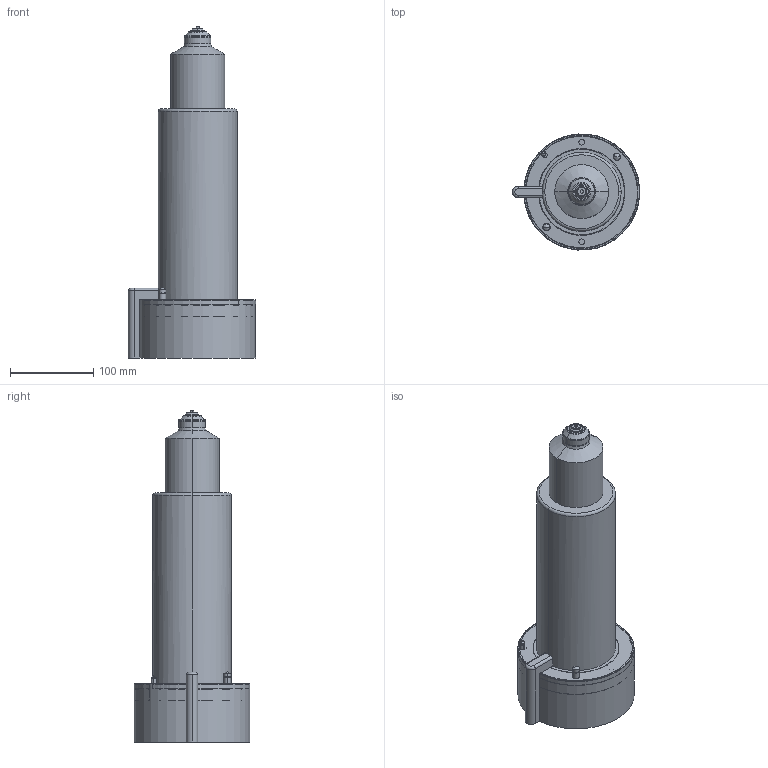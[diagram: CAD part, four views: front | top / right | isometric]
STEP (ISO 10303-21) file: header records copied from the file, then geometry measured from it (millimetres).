
FILE_DESCRIPTION (( 'STEP AP214' ), '1' );
FILE_NAME ('SB24B_OPEN_A350.STEP', '2009-07-28T15:43:32', ( 'Synventive Molding Solutions' ), ( 'Synventive Molding Solutions' ), 'SwSTEP 2.0', 'SolidWorks 2008', '' );
FILE_SCHEMA (( 'AUTOMOTIVE_DESIGN' ));
Length unit declared in the file: millimetre
Products named in the file (1): SB24B_OPEN_A350
Bounding box: 153.29 x 139.67 x 400 mm (x, y, z)
Volume: 4354770 mm3; surface area: 361980.1 mm2
Topology: 10 solids, 15 shells, 688 faces, 1659 edges, 1030 vertices
Faces by surface type: cylinder 265, plane 244, torus 91, cone 78, sphere 6, bspline 4
Entity records: 29898 total; most frequent: CARTESIAN_POINT 5931, DIRECTION 3581, ORIENTED_EDGE 3282, EDGE_CURVE 1641, AXIS2_PLACEMENT_3D 1414, VERTEX_POINT 1030, EDGE_LOOP 767, LINE 753
